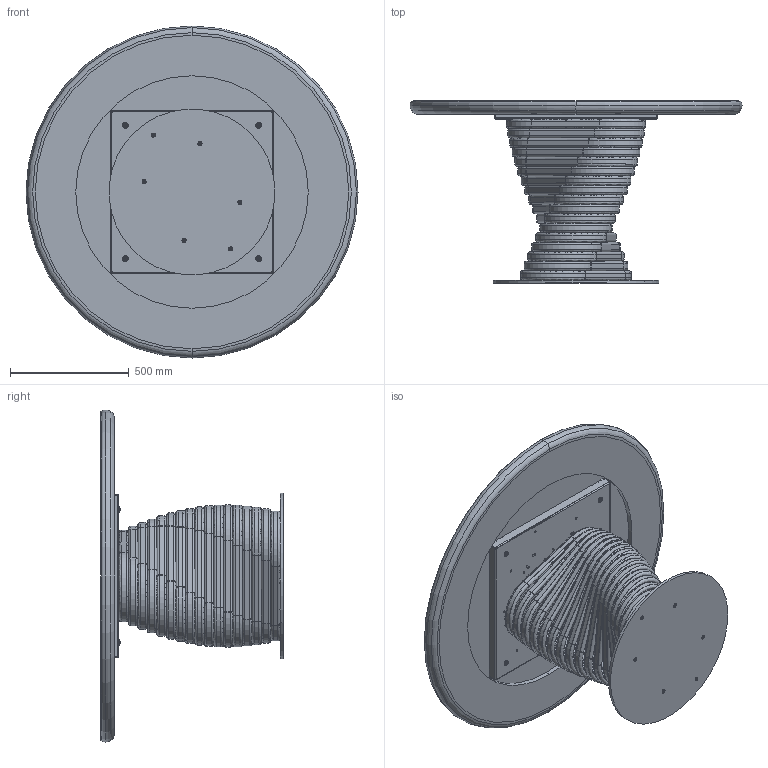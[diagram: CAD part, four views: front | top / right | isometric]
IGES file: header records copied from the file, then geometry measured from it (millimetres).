
Start section: SolidWorks IGES file using analytic representation for surfaces
Global section: file name: Y:\eforma\TECNICO\SOLIDWORKS\E-FORMA\1-TAVOLI\ROTOLO\RO06K_Rotolo_d.140_King.IGS; native system: SolidWorks 2022; preprocessor: SolidWorks 2022; author: eforma.tech; date: 240802.090618; units: millimetre
Bounding box: 1400 x 768 x 1400 mm (x, y, z)
Volume: 80859522.5 mm3; surface area: 13160346.8 mm2
Topology: 84 solids, 84 shells, 1414 faces, 3586 edges, 2324 vertices
Faces by surface type: revolution 852, plane 562
